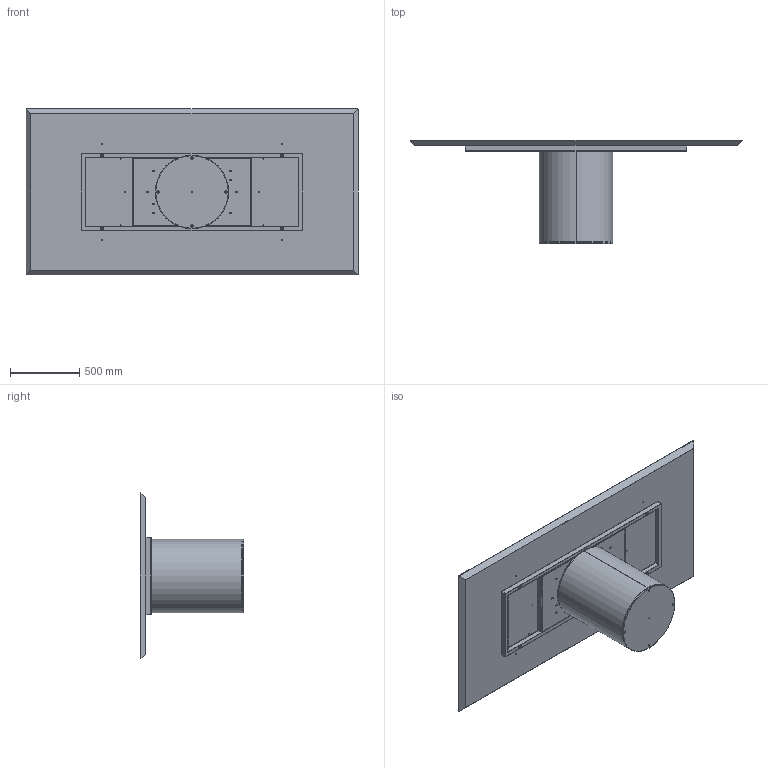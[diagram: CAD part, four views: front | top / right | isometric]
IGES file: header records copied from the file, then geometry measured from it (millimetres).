
Start section: SolidWorks IGES file using analytic representation for surfaces
Global section: file name: Y:\eforma\TECNICO\SOLIDWORKS\E-FORMA\1-TAVOLI\CILINDRO\02 parts\CI23W.IGS; native system: SolidWorks 2022; preprocessor: SolidWorks 2022; author: eforma.tech; date: 240808.092405; units: millimetre
Bounding box: 2400 x 748 x 1200 mm (x, y, z)
Volume: 113732625.7 mm3; surface area: 10997721.1 mm2
Topology: 20 solids, 20 shells, 752 faces, 1780 edges, 1025 vertices
Faces by surface type: revolution 452, plane 300
